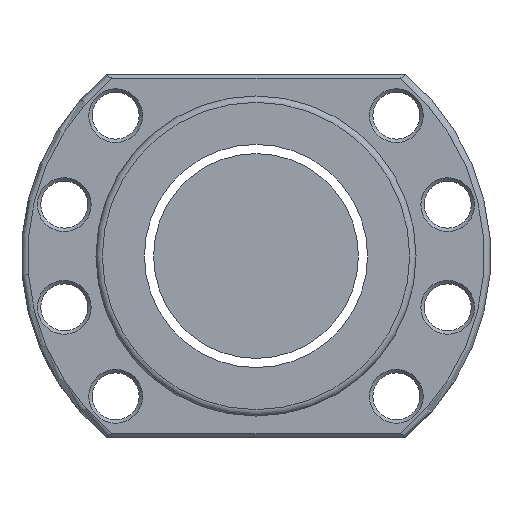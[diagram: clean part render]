
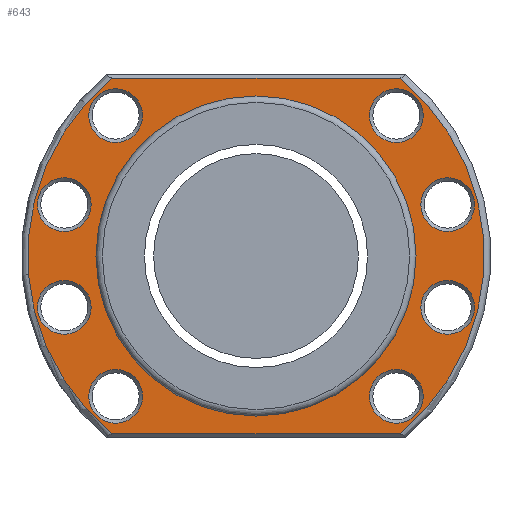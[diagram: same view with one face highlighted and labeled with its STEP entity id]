
A CAD part, left-side view. The second image highlights one B-rep face of the part: STEP entity #643.
In plain terms, the highlighted planar face has unit normal (-1, 0, 0).
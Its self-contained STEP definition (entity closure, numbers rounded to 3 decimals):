
#60 = CARTESIAN_POINT ( 'NONE',  ( -106.5, 0., 0. ) ) ;
#63 = CARTESIAN_POINT ( 'NONE',  ( -106.5, 0., 0. ) ) ;
#113 = VERTEX_POINT ( 'NONE', #1450 ) ;
#124 = EDGE_LOOP ( 'NONE', ( #2312 ) ) ;
#164 = VERTEX_POINT ( 'NONE', #3025 ) ;
#168 = DIRECTION ( 'NONE',  ( 0., -1., 0. ) ) ;
#176 = EDGE_CURVE ( 'NONE', #1931, #3010, #3320, .T. ) ;
#193 = DIRECTION ( 'NONE',  ( 0., 0., 1. ) ) ;
#260 = ORIENTED_EDGE ( 'NONE', *, *, #2684, .T. ) ;
#265 = DIRECTION ( 'NONE',  ( 1., 0., 0. ) ) ;
#281 = AXIS2_PLACEMENT_3D ( 'NONE', #1742, #2821, #193 ) ;
#285 = FACE_BOUND ( 'NONE', #527, .T. ) ;
#323 = CARTESIAN_POINT ( 'NONE',  ( -106.5, 32.88, -32.88 ) ) ;
#344 = CIRCLE ( 'NONE', #2293, 6.3 ) ;
#348 = ORIENTED_EDGE ( 'NONE', *, *, #1476, .T. ) ;
#375 = FACE_BOUND ( 'NONE', #511, .T. ) ;
#402 = CIRCLE ( 'NONE', #617, 6.3 ) ;
#437 = VERTEX_POINT ( 'NONE', #2284 ) ;
#462 = CIRCLE ( 'NONE', #1448, 6.3 ) ;
#507 = CIRCLE ( 'NONE', #2714, 6.3 ) ;
#511 = EDGE_LOOP ( 'NONE', ( #2743 ) ) ;
#513 = FACE_BOUND ( 'NONE', #124, .T. ) ;
#527 = EDGE_LOOP ( 'NONE', ( #1789 ) ) ;
#553 = DIRECTION ( 'NONE',  ( 1., 0., 0. ) ) ;
#570 = DIRECTION ( 'NONE',  ( 0., 0., 1. ) ) ;
#575 = CARTESIAN_POINT ( 'NONE',  ( -106.5, 55., 41.7 ) ) ;
#580 = DIRECTION ( 'NONE',  ( 1., 0., 0. ) ) ;
#583 = EDGE_LOOP ( 'NONE', ( #1229 ) ) ;
#617 = AXIS2_PLACEMENT_3D ( 'NONE', #1832, #265, #2373 ) ;
#624 = DIRECTION ( 'NONE',  ( 0., 0., 1. ) ) ;
#643 = ADVANCED_FACE ( 'NONE', ( #375, #2924, #1668, #513, #285, #1166, #1423, #3132, #2114, #1340 ), #3251, .T. ) ;
#657 = DIRECTION ( 'NONE',  ( 1., 0., 0. ) ) ;
#684 = CIRCLE ( 'NONE', #281, 6.3 ) ;
#685 = AXIS2_PLACEMENT_3D ( 'NONE', #3213, #3192, #624 ) ;
#687 = VERTEX_POINT ( 'NONE', #2302 ) ;
#710 = ORIENTED_EDGE ( 'NONE', *, *, #176, .T. ) ;
#741 = CARTESIAN_POINT ( 'NONE',  ( -106.5, -33.517, -41.7 ) ) ;
#743 = CIRCLE ( 'NONE', #685, 6.3 ) ;
#778 = CARTESIAN_POINT ( 'NONE',  ( -106.5, 55., 0. ) ) ;
#794 = ORIENTED_EDGE ( 'NONE', *, *, #1015, .T. ) ;
#837 = EDGE_LOOP ( 'NONE', ( #1377 ) ) ;
#898 = CARTESIAN_POINT ( 'NONE',  ( -106.5, -44.916, 12.035 ) ) ;
#918 = EDGE_LOOP ( 'NONE', ( #2793 ) ) ;
#924 = CARTESIAN_POINT ( 'NONE',  ( -106.5, 32.88, -26.58 ) ) ;
#954 = CARTESIAN_POINT ( 'NONE',  ( -106.5, 33.517, -41.7 ) ) ;
#1013 = VECTOR ( 'NONE', #2682, 1000. ) ;
#1015 = EDGE_CURVE ( 'NONE', #1995, #1931, #1509, .T. ) ;
#1056 = AXIS2_PLACEMENT_3D ( 'NONE', #778, #3147, #1829 ) ;
#1061 = AXIS2_PLACEMENT_3D ( 'NONE', #1638, #2435, #2685 ) ;
#1086 = DIRECTION ( 'NONE',  ( 1., 0., 0. ) ) ;
#1112 = CARTESIAN_POINT ( 'NONE',  ( -106.5, -32.88, 39.18 ) ) ;
#1166 = FACE_BOUND ( 'NONE', #3246, .T. ) ;
#1223 = CIRCLE ( 'NONE', #2659, 6.3 ) ;
#1224 = EDGE_CURVE ( 'NONE', #437, #437, #1223, .T. ) ;
#1229 = ORIENTED_EDGE ( 'NONE', *, *, #3349, .T. ) ;
#1335 = AXIS2_PLACEMENT_3D ( 'NONE', #60, #2194, #2462 ) ;
#1340 = FACE_OUTER_BOUND ( 'NONE', #2162, .T. ) ;
#1357 = DIRECTION ( 'NONE',  ( 0., 0., 1. ) ) ;
#1359 = DIRECTION ( 'NONE',  ( 0., 0., 1. ) ) ;
#1377 = ORIENTED_EDGE ( 'NONE', *, *, #1497, .T. ) ;
#1379 = CARTESIAN_POINT ( 'NONE',  ( -106.5, -33.517, 41.7 ) ) ;
#1388 = VECTOR ( 'NONE', #168, 1000. ) ;
#1403 = VERTEX_POINT ( 'NONE', #2433 ) ;
#1423 = FACE_BOUND ( 'NONE', #2913, .T. ) ;
#1448 = AXIS2_PLACEMENT_3D ( 'NONE', #2701, #580, #1357 ) ;
#1450 = CARTESIAN_POINT ( 'NONE',  ( -106.5, 44.916, 18.335 ) ) ;
#1476 = EDGE_CURVE ( 'NONE', #113, #113, #743, .T. ) ;
#1497 = EDGE_CURVE ( 'NONE', #1703, #1703, #2240, .T. ) ;
#1509 = CIRCLE ( 'NONE', #1335, 53.5 ) ;
#1514 = AXIS2_PLACEMENT_3D ( 'NONE', #63, #553, #2413 ) ;
#1583 = VERTEX_POINT ( 'NONE', #1379 ) ;
#1638 = CARTESIAN_POINT ( 'NONE',  ( -106.5, 0., 0. ) ) ;
#1665 = CARTESIAN_POINT ( 'NONE',  ( -106.5, -32.88, -26.58 ) ) ;
#1668 = FACE_BOUND ( 'NONE', #918, .T. ) ;
#1679 = CIRCLE ( 'NONE', #1061, 53.5 ) ;
#1681 = DIRECTION ( 'NONE',  ( 1., 0., 0. ) ) ;
#1703 = VERTEX_POINT ( 'NONE', #924 ) ;
#1715 = DIRECTION ( 'NONE',  ( 1., 0., 0. ) ) ;
#1742 = CARTESIAN_POINT ( 'NONE',  ( -106.5, -44.916, -12.035 ) ) ;
#1785 = EDGE_CURVE ( 'NONE', #164, #164, #344, .T. ) ;
#1789 = ORIENTED_EDGE ( 'NONE', *, *, #1785, .T. ) ;
#1829 = DIRECTION ( 'NONE',  ( 0., 0., 1. ) ) ;
#1832 = CARTESIAN_POINT ( 'NONE',  ( -106.5, -32.88, -32.88 ) ) ;
#1837 = AXIS2_PLACEMENT_3D ( 'NONE', #323, #1681, #570 ) ;
#1850 = CARTESIAN_POINT ( 'NONE',  ( -106.5, 33.517, 41.7 ) ) ;
#1890 = ORIENTED_EDGE ( 'NONE', *, *, #2460, .T. ) ;
#1931 = VERTEX_POINT ( 'NONE', #954 ) ;
#1995 = VERTEX_POINT ( 'NONE', #1850 ) ;
#2037 = EDGE_CURVE ( 'NONE', #687, #687, #507, .T. ) ;
#2048 = ORIENTED_EDGE ( 'NONE', *, *, #3032, .T. ) ;
#2114 = FACE_BOUND ( 'NONE', #583, .T. ) ;
#2152 = EDGE_CURVE ( 'NONE', #2528, #2528, #402, .T. ) ;
#2162 = EDGE_LOOP ( 'NONE', ( #794, #710, #260, #2048 ) ) ;
#2194 = DIRECTION ( 'NONE',  ( -1., 0., 0. ) ) ;
#2240 = CIRCLE ( 'NONE', #1837, 6.3 ) ;
#2249 = DIRECTION ( 'NONE',  ( 0., 0., 1. ) ) ;
#2280 = CARTESIAN_POINT ( 'NONE',  ( -106.5, 32.88, 32.88 ) ) ;
#2284 = CARTESIAN_POINT ( 'NONE',  ( -106.5, -44.916, 18.335 ) ) ;
#2293 = AXIS2_PLACEMENT_3D ( 'NONE', #2280, #1715, #2249 ) ;
#2302 = CARTESIAN_POINT ( 'NONE',  ( -106.5, 44.916, -5.735 ) ) ;
#2312 = ORIENTED_EDGE ( 'NONE', *, *, #2835, .T. ) ;
#2373 = DIRECTION ( 'NONE',  ( 0., 0., 1. ) ) ;
#2413 = DIRECTION ( 'NONE',  ( 0., 0., -1. ) ) ;
#2415 = CARTESIAN_POINT ( 'NONE',  ( -106.5, 0., -37.5 ) ) ;
#2433 = CARTESIAN_POINT ( 'NONE',  ( -106.5, -44.916, -5.735 ) ) ;
#2435 = DIRECTION ( 'NONE',  ( -1., 0., 0. ) ) ;
#2460 = EDGE_CURVE ( 'NONE', #1403, #1403, #684, .T. ) ;
#2462 = DIRECTION ( 'NONE',  ( 0., 0., 1. ) ) ;
#2528 = VERTEX_POINT ( 'NONE', #1665 ) ;
#2549 = CARTESIAN_POINT ( 'NONE',  ( -106.5, 55., -41.7 ) ) ;
#2659 = AXIS2_PLACEMENT_3D ( 'NONE', #898, #657, #3016 ) ;
#2675 = CARTESIAN_POINT ( 'NONE',  ( -106.5, 44.916, -12.035 ) ) ;
#2682 = DIRECTION ( 'NONE',  ( 0., 1., 0. ) ) ;
#2684 = EDGE_CURVE ( 'NONE', #3010, #1583, #1679, .T. ) ;
#2685 = DIRECTION ( 'NONE',  ( 0., 0., 1. ) ) ;
#2701 = CARTESIAN_POINT ( 'NONE',  ( -106.5, -32.88, 32.88 ) ) ;
#2714 = AXIS2_PLACEMENT_3D ( 'NONE', #2675, #1086, #1359 ) ;
#2743 = ORIENTED_EDGE ( 'NONE', *, *, #2152, .T. ) ;
#2793 = ORIENTED_EDGE ( 'NONE', *, *, #1224, .T. ) ;
#2821 = DIRECTION ( 'NONE',  ( 1., 0., 0. ) ) ;
#2835 = EDGE_CURVE ( 'NONE', #3198, #3198, #462, .T. ) ;
#2913 = EDGE_LOOP ( 'NONE', ( #2930 ) ) ;
#2919 = LINE ( 'NONE', #575, #1013 ) ;
#2920 = VERTEX_POINT ( 'NONE', #2415 ) ;
#2924 = FACE_BOUND ( 'NONE', #3172, .T. ) ;
#2930 = ORIENTED_EDGE ( 'NONE', *, *, #2037, .T. ) ;
#3010 = VERTEX_POINT ( 'NONE', #741 ) ;
#3016 = DIRECTION ( 'NONE',  ( 0., 0., 1. ) ) ;
#3025 = CARTESIAN_POINT ( 'NONE',  ( -106.5, 32.88, 39.18 ) ) ;
#3032 = EDGE_CURVE ( 'NONE', #1583, #1995, #2919, .T. ) ;
#3054 = CIRCLE ( 'NONE', #1514, 37.5 ) ;
#3132 = FACE_BOUND ( 'NONE', #837, .T. ) ;
#3147 = DIRECTION ( 'NONE',  ( -1., 0., 0. ) ) ;
#3172 = EDGE_LOOP ( 'NONE', ( #1890 ) ) ;
#3192 = DIRECTION ( 'NONE',  ( 1., 0., 0. ) ) ;
#3198 = VERTEX_POINT ( 'NONE', #1112 ) ;
#3213 = CARTESIAN_POINT ( 'NONE',  ( -106.5, 44.916, 12.035 ) ) ;
#3246 = EDGE_LOOP ( 'NONE', ( #348 ) ) ;
#3251 = PLANE ( 'NONE',  #1056 ) ;
#3320 = LINE ( 'NONE', #2549, #1388 ) ;
#3349 = EDGE_CURVE ( 'NONE', #2920, #2920, #3054, .T. ) ;
